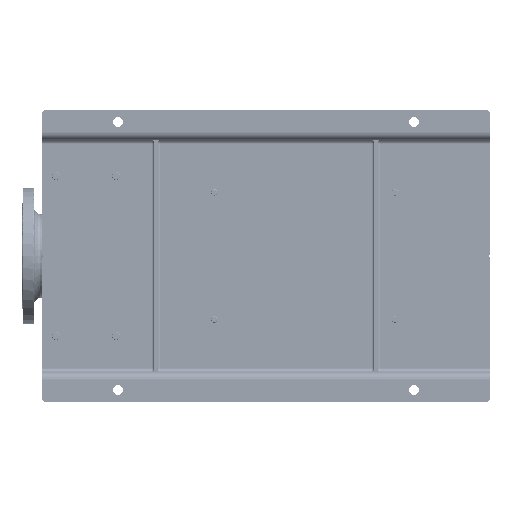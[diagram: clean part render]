
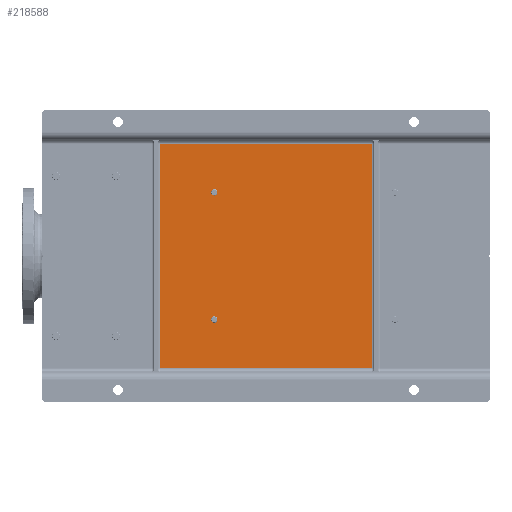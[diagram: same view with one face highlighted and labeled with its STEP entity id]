
A CAD part, front view. The second image highlights one B-rep face of the part: STEP entity #218588.
In plain terms, the highlighted planar face has unit normal (0, -1, 0).
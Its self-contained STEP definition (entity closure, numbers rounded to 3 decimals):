
#3216 = FACE_BOUND ( 'NONE', #114433, .T. ) ;
#5504 = AXIS2_PLACEMENT_3D ( 'NONE', #242628, #151543, #102260 ) ;
#7469 = EDGE_CURVE ( 'NONE', #126650, #218449, #35022, .T. ) ;
#10862 = EDGE_CURVE ( 'NONE', #21102, #240849, #138486, .T. ) ;
#21102 = VERTEX_POINT ( 'NONE', #35244 ) ;
#28832 = DIRECTION ( 'NONE',  ( 0., 0., 1. ) ) ;
#30553 = EDGE_CURVE ( 'NONE', #218449, #104180, #205191, .T. ) ;
#35022 = LINE ( 'NONE', #129087, #80175 ) ;
#35244 = CARTESIAN_POINT ( 'NONE',  ( 206., 90., -422.65 ) ) ;
#40281 = AXIS2_PLACEMENT_3D ( 'NONE', #101283, #263313, #28832 ) ;
#40685 = AXIS2_PLACEMENT_3D ( 'NONE', #207926, #133914, #87686 ) ;
#41701 = CARTESIAN_POINT ( 'NONE',  ( 645., 90., -290. ) ) ;
#42091 = CARTESIAN_POINT ( 'NONE',  ( 85., 90., -830. ) ) ;
#45696 = CIRCLE ( 'NONE', #218093, 8. ) ;
#48023 = DIRECTION ( 'NONE',  ( 0., 0., -1. ) ) ;
#49512 = EDGE_CURVE ( 'NONE', #255866, #93635, #148979, .T. ) ;
#53137 = ORIENTED_EDGE ( 'NONE', *, *, #231040, .T. ) ;
#64474 = ORIENTED_EDGE ( 'NONE', *, *, #71758, .T. ) ;
#69818 = LINE ( 'NONE', #42091, #106809 ) ;
#71758 = EDGE_CURVE ( 'NONE', #93635, #255866, #158464, .T. ) ;
#74203 = DIRECTION ( 'NONE',  ( 0., -1., 0. ) ) ;
#74537 = ORIENTED_EDGE ( 'NONE', *, *, #191682, .T. ) ;
#80175 = VECTOR ( 'NONE', #155247, 1000. ) ;
#85821 = CARTESIAN_POINT ( 'NONE',  ( 85., 90., -295. ) ) ;
#87686 = DIRECTION ( 'NONE',  ( 0., 0., 1. ) ) ;
#88342 = EDGE_LOOP ( 'NONE', ( #167002, #183832, #96674, #53137 ) ) ;
#93635 = VERTEX_POINT ( 'NONE', #278419 ) ;
#94340 = CARTESIAN_POINT ( 'NONE',  ( 206., 90., -430.65 ) ) ;
#96674 = ORIENTED_EDGE ( 'NONE', *, *, #30553, .T. ) ;
#101283 = CARTESIAN_POINT ( 'NONE',  ( 524., 90., -430.65 ) ) ;
#102260 = DIRECTION ( 'NONE',  ( 0., 0., -1. ) ) ;
#104180 = VERTEX_POINT ( 'NONE', #289617 ) ;
#106809 = VECTOR ( 'NONE', #136131, 1000. ) ;
#106857 = CARTESIAN_POINT ( 'NONE',  ( 206., 90., -438.65 ) ) ;
#112561 = EDGE_CURVE ( 'NONE', #127673, #126650, #69818, .T. ) ;
#114433 = EDGE_LOOP ( 'NONE', ( #64474, #168363 ) ) ;
#126650 = VERTEX_POINT ( 'NONE', #248069 ) ;
#127673 = VERTEX_POINT ( 'NONE', #85821 ) ;
#129087 = CARTESIAN_POINT ( 'NONE',  ( 75., 90., -825. ) ) ;
#133914 = DIRECTION ( 'NONE',  ( 0., 1., 0. ) ) ;
#135750 = DIRECTION ( 'NONE',  ( 0., 0., 1. ) ) ;
#136131 = DIRECTION ( 'NONE',  ( 0., 0., -1. ) ) ;
#137526 = DIRECTION ( 'NONE',  ( 0., 0., -1. ) ) ;
#138486 = CIRCLE ( 'NONE', #5504, 8. ) ;
#139061 = LINE ( 'NONE', #253304, #230485 ) ;
#145100 = PLANE ( 'NONE',  #197341 ) ;
#148979 = CIRCLE ( 'NONE', #40685, 8. ) ;
#151543 = DIRECTION ( 'NONE',  ( 0., 1., 0. ) ) ;
#155247 = DIRECTION ( 'NONE',  ( 1., 0., 0. ) ) ;
#158464 = CIRCLE ( 'NONE', #40281, 8. ) ;
#167002 = ORIENTED_EDGE ( 'NONE', *, *, #112561, .T. ) ;
#168363 = ORIENTED_EDGE ( 'NONE', *, *, #49512, .T. ) ;
#172777 = EDGE_LOOP ( 'NONE', ( #206460, #74537 ) ) ;
#174497 = VECTOR ( 'NONE', #135750, 1000. ) ;
#183832 = ORIENTED_EDGE ( 'NONE', *, *, #7469, .T. ) ;
#186861 = DIRECTION ( 'NONE',  ( 0., 1., 0. ) ) ;
#191682 = EDGE_CURVE ( 'NONE', #240849, #21102, #45696, .T. ) ;
#197341 = AXIS2_PLACEMENT_3D ( 'NONE', #291176, #74203, #48023 ) ;
#205191 = LINE ( 'NONE', #41701, #174497 ) ;
#205468 = CARTESIAN_POINT ( 'NONE',  ( 524., 90., -438.65 ) ) ;
#206460 = ORIENTED_EDGE ( 'NONE', *, *, #10862, .T. ) ;
#207926 = CARTESIAN_POINT ( 'NONE',  ( 524., 90., -430.65 ) ) ;
#218093 = AXIS2_PLACEMENT_3D ( 'NONE', #94340, #186861, #137526 ) ;
#218449 = VERTEX_POINT ( 'NONE', #233119 ) ;
#218588 = ADVANCED_FACE ( 'NONE', ( #3216, #244899, #262379 ), #145100, .T. ) ;
#230485 = VECTOR ( 'NONE', #236234, 1000. ) ;
#231040 = EDGE_CURVE ( 'NONE', #104180, #127673, #139061, .T. ) ;
#233119 = CARTESIAN_POINT ( 'NONE',  ( 645., 90., -825. ) ) ;
#236234 = DIRECTION ( 'NONE',  ( -1., 0., 0. ) ) ;
#240849 = VERTEX_POINT ( 'NONE', #106857 ) ;
#242628 = CARTESIAN_POINT ( 'NONE',  ( 206., 90., -430.65 ) ) ;
#244899 = FACE_BOUND ( 'NONE', #172777, .T. ) ;
#248069 = CARTESIAN_POINT ( 'NONE',  ( 85., 90., -825. ) ) ;
#253304 = CARTESIAN_POINT ( 'NONE',  ( 75., 90., -295. ) ) ;
#255866 = VERTEX_POINT ( 'NONE', #205468 ) ;
#262379 = FACE_OUTER_BOUND ( 'NONE', #88342, .T. ) ;
#263313 = DIRECTION ( 'NONE',  ( 0., 1., 0. ) ) ;
#278419 = CARTESIAN_POINT ( 'NONE',  ( 524., 90., -422.65 ) ) ;
#289617 = CARTESIAN_POINT ( 'NONE',  ( 645., 90., -295. ) ) ;
#291176 = CARTESIAN_POINT ( 'NONE',  ( 75., 90., -1120. ) ) ;
